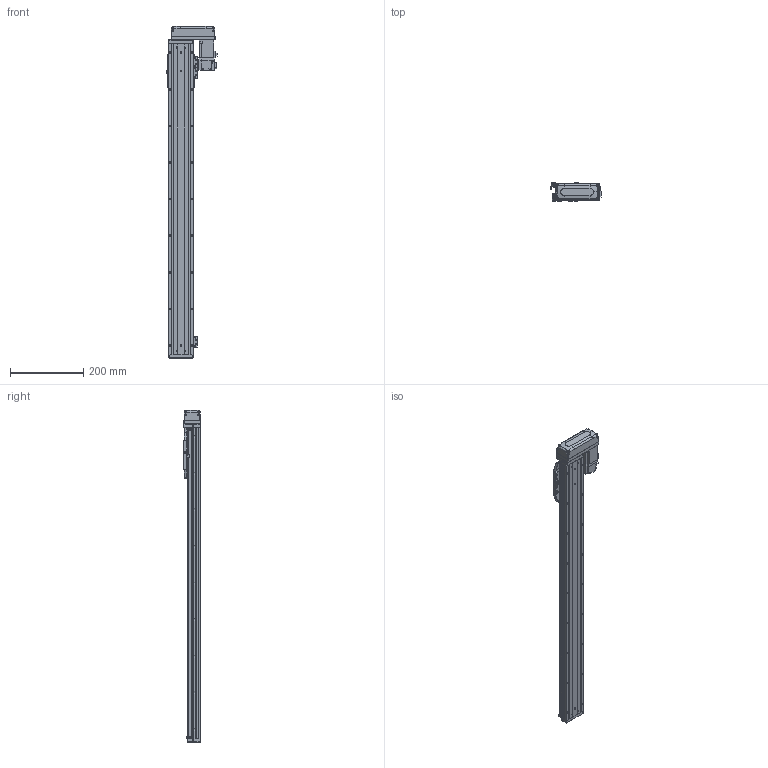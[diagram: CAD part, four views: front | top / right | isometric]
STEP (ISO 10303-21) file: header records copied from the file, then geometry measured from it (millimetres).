
FILE_DESCRIPTION (( 'STEP AP203' ), '1' );
FILE_NAME ('CTHA60-700-BL-M10-C4L.step', '2022-03-19T06:15:10', ( '微软用户' ), ( '微软中国' ), 'SwSTEP 2.0', 'SolidWorks 2020', '' );
FILE_SCHEMA (( 'CONFIG_CONTROL_DESIGN' ));
Length unit declared in the file: millimetre
Products named in the file (18): CTHA60-700-BL-M10-C4L; CTHA60-017; CTHA60-016; CTHA60-021; HG-KR13（三菱）; CTHA60-001_850; GBT 70.1-M4×16; CTHA60-002; CTHA60-004; GBT77-2000 M3×3; CTHA60-031; CTHA60-005; CTHA60-006-1; GB¨uT 70.2-M3¡Á6_M3¡Á6; GBT 70.1-M3℅6; CTHA60-033; EE_SX911P_R; GBT 70.3-M3℅6
Assembly tree (54 placements, depth 2):
  CTHA60-700-BL-M10-C4L
    CTHA60-001_850
    CTHA60-004
    CTHA60-005
    GB¨uT 70.2-M3¡Á6_M3¡Á6  x10
    EE_SX911P_R  x3
    CTHA60-017  x3
    CTHA60-021  x2
    GBT 70.1-M4×16  x10
    GBT77-2000 M3×3  x6
    GBT 70.1-M3℅6  x6
    GBT 70.3-M3℅6  x4
    CTHA60-016  x2
    HG-KR13（三菱）
    CTHA60-002
    CTHA60-031
    CTHA60-006-1
    CTHA60-033
Bounding box: 137.1 x 48 x 907 mm (x, y, z)
Volume: 1541924.1 mm3; surface area: 458430.7 mm2
Topology: 56 solids, 56 shells, 2554 faces, 6149 edges, 3793 vertices
Faces by surface type: plane 1473, cylinder 589, cone 344, torus 92, bspline 32, sphere 24
Entity records: 46303 total; most frequent: CARTESIAN_POINT 8922, DIRECTION 7166, ORIENTED_EDGE 7106, EDGE_CURVE 3553, VECTOR 2526, LINE 2526, AXIS2_PLACEMENT_3D 2320, VERTEX_POINT 2252
